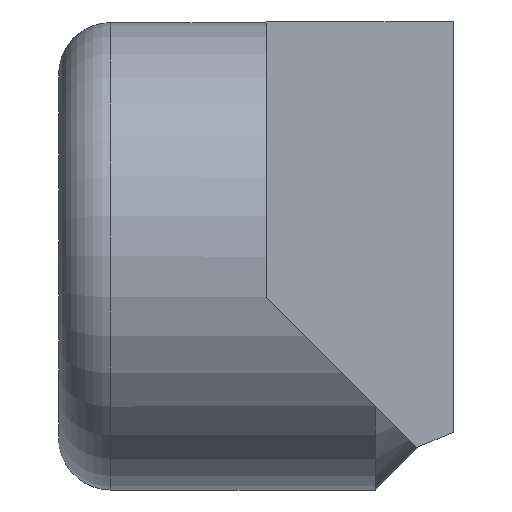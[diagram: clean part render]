
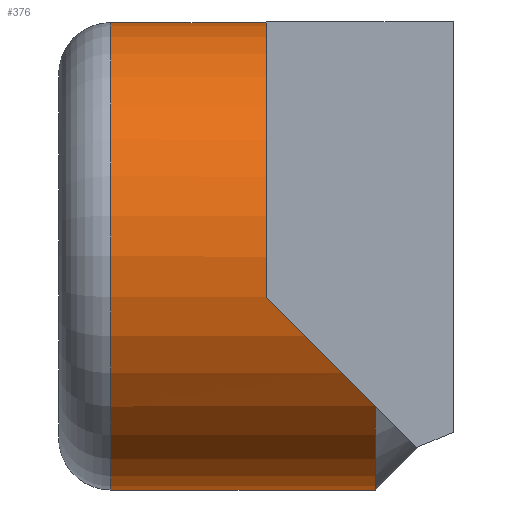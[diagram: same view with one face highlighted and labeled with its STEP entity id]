
A CAD part, front view. The second image highlights one B-rep face of the part: STEP entity #376.
In plain terms, the highlighted cylindrical face has radius 4.5 mm (diameter 9 mm), a full revolution.
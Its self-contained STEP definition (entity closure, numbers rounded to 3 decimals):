
#32=CARTESIAN_POINT('',(58.85,741.301,-29.9));
#33=VERTEX_POINT('',#32);
#42=CARTESIAN_POINT('',(60.95,742.281,-32.));
#43=VERTEX_POINT('',#42);
#44=CARTESIAN_POINT('',(58.061,745.731,-29.111));
#45=DIRECTION('',(0.707,0.,0.707));
#46=DIRECTION('',(-0.707,0.,0.707));
#47=AXIS2_PLACEMENT_3D('',#44,#45,#46);
#48=ELLIPSE('',#47,6.364,4.5);
#49=EDGE_CURVE('',#33,#43,#48,.T.);
#217=CARTESIAN_POINT('',(58.85,745.731,-24.611));
#218=VERTEX_POINT('',#217);
#219=CARTESIAN_POINT('',(58.85,750.161,-29.9));
#220=VERTEX_POINT('',#219);
#221=CARTESIAN_POINT('',(58.85,745.731,-29.111));
#222=DIRECTION('',(-1.,0.,0.));
#223=DIRECTION('',(0.,-1.,0.));
#224=AXIS2_PLACEMENT_3D('',#221,#222,#223);
#225=CIRCLE('',#224,4.5);
#226=EDGE_CURVE('',#218,#220,#225,.T.);
#228=CARTESIAN_POINT('',(58.85,745.731,-29.111));
#229=DIRECTION('',(-1.,0.,0.));
#230=DIRECTION('',(0.,-1.,0.));
#231=AXIS2_PLACEMENT_3D('',#228,#229,#230);
#232=CIRCLE('',#231,4.5);
#233=EDGE_CURVE('',#33,#218,#232,.T.);
#261=CARTESIAN_POINT('',(60.95,749.181,-32.));
#262=VERTEX_POINT('',#261);
#276=CARTESIAN_POINT('',(58.061,745.731,-29.111));
#277=DIRECTION('',(0.707,0.,0.707));
#278=DIRECTION('',(-0.707,0.,0.707));
#279=AXIS2_PLACEMENT_3D('',#276,#277,#278);
#280=ELLIPSE('',#279,6.364,4.5);
#281=EDGE_CURVE('',#262,#220,#280,.T.);
#342=CARTESIAN_POINT('',(61.75,745.731,-29.111));
#343=DIRECTION('',(-1.,0.,0.));
#344=DIRECTION('',(0.,0.,1.));
#345=AXIS2_PLACEMENT_3D('',#342,#343,#344);
#346=CYLINDRICAL_SURFACE('',#345,4.5);
#347=CARTESIAN_POINT('',(55.85,745.731,-24.611));
#348=VERTEX_POINT('',#347);
#349=CARTESIAN_POINT('',(55.85,745.731,-24.611));
#350=DIRECTION('',(1.,-0.,-0.));
#351=VECTOR('',#350,3.);
#352=LINE('',#349,#351);
#353=EDGE_CURVE('',#348,#218,#352,.T.);
#354=ORIENTED_EDGE('',*,*,#353,.T.);
#355=ORIENTED_EDGE('',*,*,#226,.T.);
#356=ORIENTED_EDGE('',*,*,#281,.F.);
#357=CARTESIAN_POINT('',(60.95,745.731,-29.111));
#358=DIRECTION('',(-1.,0.,0.));
#359=DIRECTION('',(0.,0.,1.));
#360=AXIS2_PLACEMENT_3D('',#357,#358,#359);
#361=CIRCLE('',#360,4.5);
#362=EDGE_CURVE('',#262,#43,#361,.T.);
#363=ORIENTED_EDGE('',*,*,#362,.T.);
#364=ORIENTED_EDGE('',*,*,#49,.F.);
#365=ORIENTED_EDGE('',*,*,#233,.T.);
#366=ORIENTED_EDGE('',*,*,#353,.F.);
#367=CARTESIAN_POINT('',(55.85,745.731,-29.111));
#368=DIRECTION('',(1.,-0.,-0.));
#369=DIRECTION('',(0.,0.,1.));
#370=AXIS2_PLACEMENT_3D('',#367,#368,#369);
#371=CIRCLE('',#370,4.5);
#372=EDGE_CURVE('',#348,#348,#371,.T.);
#373=ORIENTED_EDGE('',*,*,#372,.T.);
#374=EDGE_LOOP('',(#354,#355,#356,#363,#364,#365,#366,#373));
#375=FACE_BOUND('',#374,.T.);
#376=ADVANCED_FACE('',(#375),#346,.T.);
